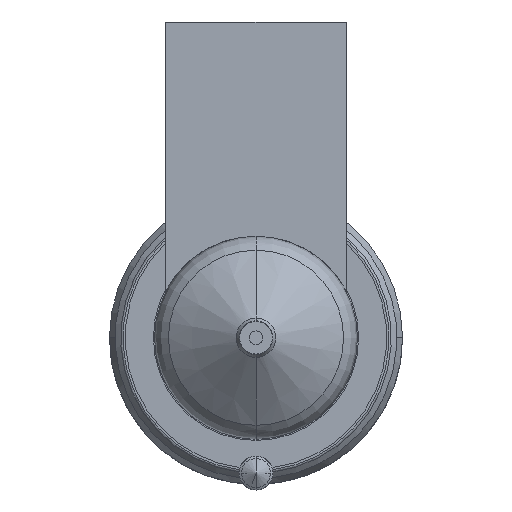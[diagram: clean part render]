
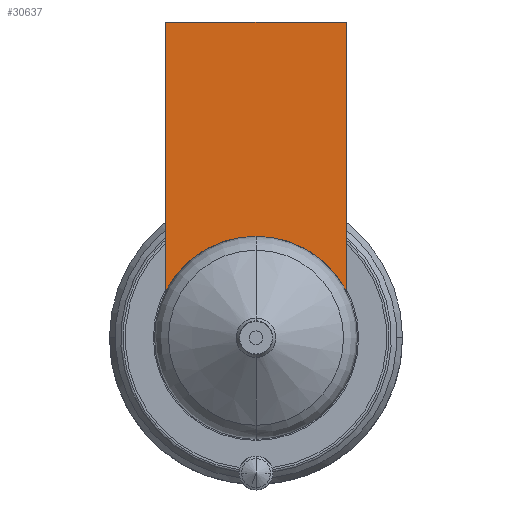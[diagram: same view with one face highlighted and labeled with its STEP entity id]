
A CAD part, front view. The second image highlights one B-rep face of the part: STEP entity #30637.
In plain terms, the highlighted planar face has unit normal (0, -1, 0).
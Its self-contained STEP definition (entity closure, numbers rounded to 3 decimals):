
#29976=DIRECTION('',(1.,0.,0.));
#29977=VECTOR('',#29976,16.);
#29978=CARTESIAN_POINT('',(-8.,-54.,28.));
#29979=LINE('',#29978,#29977);
#29984=CARTESIAN_POINT('',(0.,-54.,0.));
#29985=DIRECTION('',(0.,-1.,0.));
#29986=DIRECTION('',(0.889,0.,0.458));
#29987=AXIS2_PLACEMENT_3D('',#29984,#29985,#29986);
#29992=CARTESIAN_POINT('',(0.,-54.,0.));
#29993=DIRECTION('',(0.,-1.,0.));
#29994=DIRECTION('',(0.,0.,1.));
#29995=AXIS2_PLACEMENT_3D('',#29992,#29993,#29994);
#30021=DIRECTION('',(0.,0.,-1.));
#30022=VECTOR('',#30021,23.877);
#30023=CARTESIAN_POINT('',(-8.,-54.,28.));
#30024=LINE('',#30023,#30022);
#30509=DIRECTION('',(0.,0.,-1.));
#30510=VECTOR('',#30509,23.877);
#30511=CARTESIAN_POINT('',(8.,-54.,28.));
#30512=LINE('',#30511,#30510);
#30562=CARTESIAN_POINT('',(-8.,-54.,28.));
#30563=VERTEX_POINT('',#30562);
#30568=CARTESIAN_POINT('',(8.,-54.,28.));
#30569=VERTEX_POINT('',#30568);
#30572=CARTESIAN_POINT('',(-8.,-54.,4.123));
#30573=VERTEX_POINT('',#30572);
#30576=CARTESIAN_POINT('',(8.,-54.,4.123));
#30577=VERTEX_POINT('',#30576);
#30618=CARTESIAN_POINT('',(0.,-54.,9.));
#30619=VERTEX_POINT('',#30618);
#30620=CARTESIAN_POINT('',(0.,-54.,9.));
#30621=DIRECTION('',(0.,1.,0.));
#30622=DIRECTION('',(0.,0.,-1.));
#30623=AXIS2_PLACEMENT_3D('',#30620,#30621,#30622);
#30624=PLANE('',#30623);
#30626=ORIENTED_EDGE('',*,*,#30625,.F.);
#30628=ORIENTED_EDGE('',*,*,#30627,.T.);
#30630=ORIENTED_EDGE('',*,*,#30629,.T.);
#30632=ORIENTED_EDGE('',*,*,#30631,.T.);
#30634=ORIENTED_EDGE('',*,*,#30633,.T.);
#30635=EDGE_LOOP('',(#30626,#30628,#30630,#30632,#30634));
#30636=FACE_OUTER_BOUND('',#30635,.F.);
#30637=ADVANCED_FACE('',(#30636),#30624,.F.);
#29988=CIRCLE('',#29987,9.);
#29996=CIRCLE('',#29995,9.);
#30625=EDGE_CURVE('',#30563,#30573,#30024,.T.);
#30627=EDGE_CURVE('',#30563,#30569,#29979,.T.);
#30629=EDGE_CURVE('',#30569,#30577,#30512,.T.);
#30631=EDGE_CURVE('',#30577,#30619,#29988,.T.);
#30633=EDGE_CURVE('',#30619,#30573,#29996,.T.);
